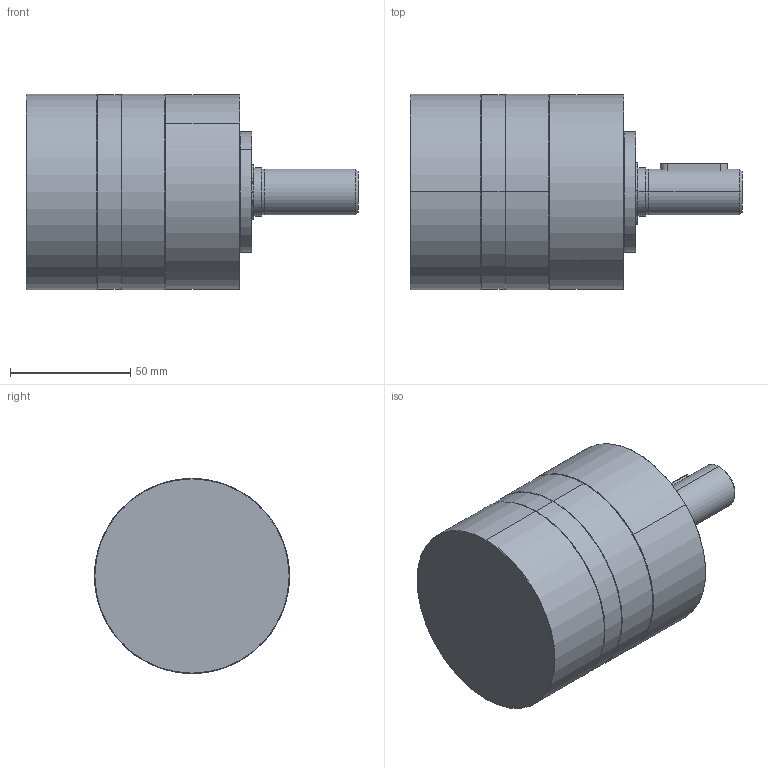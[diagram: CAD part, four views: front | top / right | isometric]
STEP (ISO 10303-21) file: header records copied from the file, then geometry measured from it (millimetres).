
FILE_DESCRIPTION (( 'STEP AP203' ), '1' );
FILE_NAME ('PI81-1.STEP', '2013-11-27T16:22:18', ( '' ), ( '' ), 'SwSTEP 2.0', 'SolidWorks 2012', '' );
FILE_SCHEMA (( 'CONFIG_CONTROL_DESIGN' ));
Length unit declared in the file: millimetre
Products named in the file (2): PI81-1; Group1^Baugruppe72_01
Assembly tree (1 placements, depth 2):
  PI81-1
    Group1^Baugruppe72_01
Bounding box: 137.8 x 81 x 81 mm (x, y, z)
Volume: 502938.7 mm3; surface area: 55036.4 mm2
Topology: 5 solids, 5 shells, 161 faces, 338 edges, 200 vertices
Faces by surface type: cylinder 70, cone 50, plane 33, torus 8
Entity records: 4444 total; most frequent: DIRECTION 852, CARTESIAN_POINT 695, ORIENTED_EDGE 660, AXIS2_PLACEMENT_3D 357, EDGE_CURVE 330, VERTEX_POINT 200, CIRCLE 192, EDGE_LOOP 182
